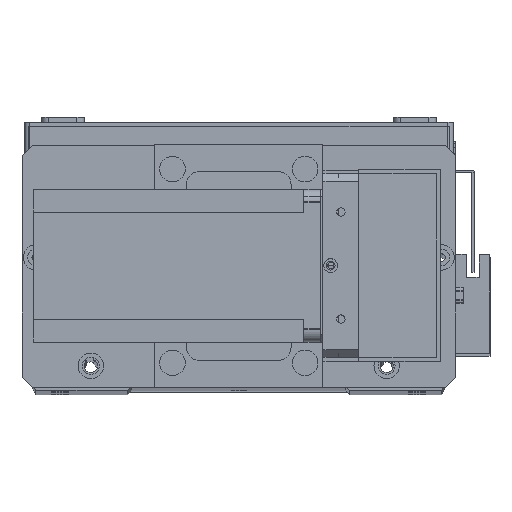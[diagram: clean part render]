
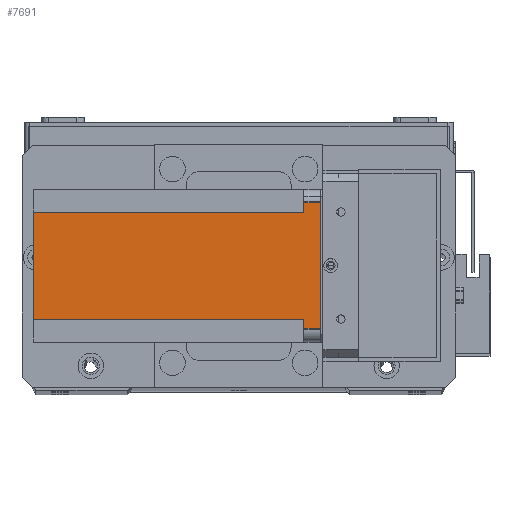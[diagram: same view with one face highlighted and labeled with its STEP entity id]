
A CAD part, top view. The second image highlights one B-rep face of the part: STEP entity #7691.
In plain terms, the highlighted planar face has unit normal (0, 0, 1) as drawn and (-1, 0, 0) by its records, which use the part's own axes.
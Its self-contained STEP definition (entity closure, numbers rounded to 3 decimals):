
#737 = VERTEX_POINT ( 'NONE', #3128 ) ;
#993 = CARTESIAN_POINT ( 'NONE',  ( 0., 55., 0. ) ) ;
#1487 = VECTOR ( 'NONE', #28768, 1000. ) ;
#1547 = LINE ( 'NONE', #15875, #8016 ) ;
#3038 = LINE ( 'NONE', #19402, #21580 ) ;
#3128 = CARTESIAN_POINT ( 'NONE',  ( 0., 5., -6.5 ) ) ;
#5962 = VERTEX_POINT ( 'NONE', #14299 ) ;
#6134 = VERTEX_POINT ( 'NONE', #10514 ) ;
#6233 = FACE_OUTER_BOUND ( 'NONE', #13223, .T. ) ;
#7691 = ADVANCED_FACE ( 'NONE', ( #6233 ), #19079, .T. ) ;
#8016 = VECTOR ( 'NONE', #16112, 1000. ) ;
#8443 = VECTOR ( 'NONE', #8694, 1000. ) ;
#8590 = CARTESIAN_POINT ( 'NONE',  ( 0., 0., 0. ) ) ;
#8599 = ORIENTED_EDGE ( 'NONE', *, *, #10944, .F. ) ;
#8694 = DIRECTION ( 'NONE',  ( 0., -1., 0. ) ) ;
#8742 = VECTOR ( 'NONE', #12776, 1000. ) ;
#10139 = VECTOR ( 'NONE', #22440, 1000. ) ;
#10514 = CARTESIAN_POINT ( 'NONE',  ( 0., 9., -6.5 ) ) ;
#10579 = ORIENTED_EDGE ( 'NONE', *, *, #12787, .T. ) ;
#10944 = EDGE_CURVE ( 'NONE', #17475, #17685, #21304, .T. ) ;
#12255 = EDGE_CURVE ( 'NONE', #737, #6134, #15196, .T. ) ;
#12304 = EDGE_CURVE ( 'NONE', #737, #17685, #1547, .T. ) ;
#12639 = CARTESIAN_POINT ( 'NONE',  ( 0., 0., -6.5 ) ) ;
#12776 = DIRECTION ( 'NONE',  ( 0., 1., 0. ) ) ;
#12787 = EDGE_CURVE ( 'NONE', #17475, #23109, #3038, .T. ) ;
#13037 = EDGE_CURVE ( 'NONE', #5962, #23109, #16293, .T. ) ;
#13223 = EDGE_LOOP ( 'NONE', ( #19434, #20529, #8599, #10579, #19795, #24228, #16834, #19414 ) ) ;
#13369 = EDGE_CURVE ( 'NONE', #23149, #5962, #17398, .T. ) ;
#13408 = EDGE_CURVE ( 'NONE', #23149, #26368, #27818, .T. ) ;
#13508 = EDGE_CURVE ( 'NONE', #6134, #26368, #26316, .T. ) ;
#13676 = CARTESIAN_POINT ( 'NONE',  ( 0., 51., -112.5 ) ) ;
#14299 = CARTESIAN_POINT ( 'NONE',  ( 0., 51., -6.5 ) ) ;
#15196 = LINE ( 'NONE', #12639, #8742 ) ;
#15579 = CARTESIAN_POINT ( 'NONE',  ( 0., 51., -112.5 ) ) ;
#15787 = DIRECTION ( 'NONE',  ( 0., 0., 1. ) ) ;
#15875 = CARTESIAN_POINT ( 'NONE',  ( 0., 5., -112.5 ) ) ;
#16112 = DIRECTION ( 'NONE',  ( 0., 0., 1. ) ) ;
#16293 = LINE ( 'NONE', #22070, #28937 ) ;
#16834 = ORIENTED_EDGE ( 'NONE', *, *, #13408, .T. ) ;
#17398 = LINE ( 'NONE', #15579, #28542 ) ;
#17475 = VERTEX_POINT ( 'NONE', #993 ) ;
#17685 = VERTEX_POINT ( 'NONE', #28385 ) ;
#18282 = AXIS2_PLACEMENT_3D ( 'NONE', #19388, #18975, #18852 ) ;
#18852 = DIRECTION ( 'NONE',  ( 0., -1., 0. ) ) ;
#18975 = DIRECTION ( 'NONE',  ( -1., 0., 0. ) ) ;
#19079 = PLANE ( 'NONE',  #18282 ) ;
#19388 = CARTESIAN_POINT ( 'NONE',  ( 0., 0., -112.5 ) ) ;
#19402 = CARTESIAN_POINT ( 'NONE',  ( 0., 55., -112.5 ) ) ;
#19414 = ORIENTED_EDGE ( 'NONE', *, *, #13508, .F. ) ;
#19434 = ORIENTED_EDGE ( 'NONE', *, *, #12255, .F. ) ;
#19795 = ORIENTED_EDGE ( 'NONE', *, *, #13037, .F. ) ;
#20529 = ORIENTED_EDGE ( 'NONE', *, *, #12304, .T. ) ;
#21304 = LINE ( 'NONE', #8590, #8443 ) ;
#21565 = CARTESIAN_POINT ( 'NONE',  ( 0., 0., -112.5 ) ) ;
#21580 = VECTOR ( 'NONE', #21805, 1000. ) ;
#21805 = DIRECTION ( 'NONE',  ( 0., 0., -1. ) ) ;
#22070 = CARTESIAN_POINT ( 'NONE',  ( 0., 60., -6.5 ) ) ;
#22440 = DIRECTION ( 'NONE',  ( 0., -1., 0. ) ) ;
#23109 = VERTEX_POINT ( 'NONE', #27843 ) ;
#23149 = VERTEX_POINT ( 'NONE', #13676 ) ;
#24228 = ORIENTED_EDGE ( 'NONE', *, *, #13369, .F. ) ;
#26316 = LINE ( 'NONE', #28843, #1487 ) ;
#26368 = VERTEX_POINT ( 'NONE', #29317 ) ;
#27818 = LINE ( 'NONE', #21565, #10139 ) ;
#27843 = CARTESIAN_POINT ( 'NONE',  ( 0., 55., -6.5 ) ) ;
#28154 = DIRECTION ( 'NONE',  ( 0., 1., 0. ) ) ;
#28385 = CARTESIAN_POINT ( 'NONE',  ( 0., 5., 0. ) ) ;
#28542 = VECTOR ( 'NONE', #15787, 1000. ) ;
#28768 = DIRECTION ( 'NONE',  ( 0., 0., -1. ) ) ;
#28843 = CARTESIAN_POINT ( 'NONE',  ( 0., 9., -112.5 ) ) ;
#28937 = VECTOR ( 'NONE', #28154, 1000. ) ;
#29317 = CARTESIAN_POINT ( 'NONE',  ( 0., 9., -112.5 ) ) ;
